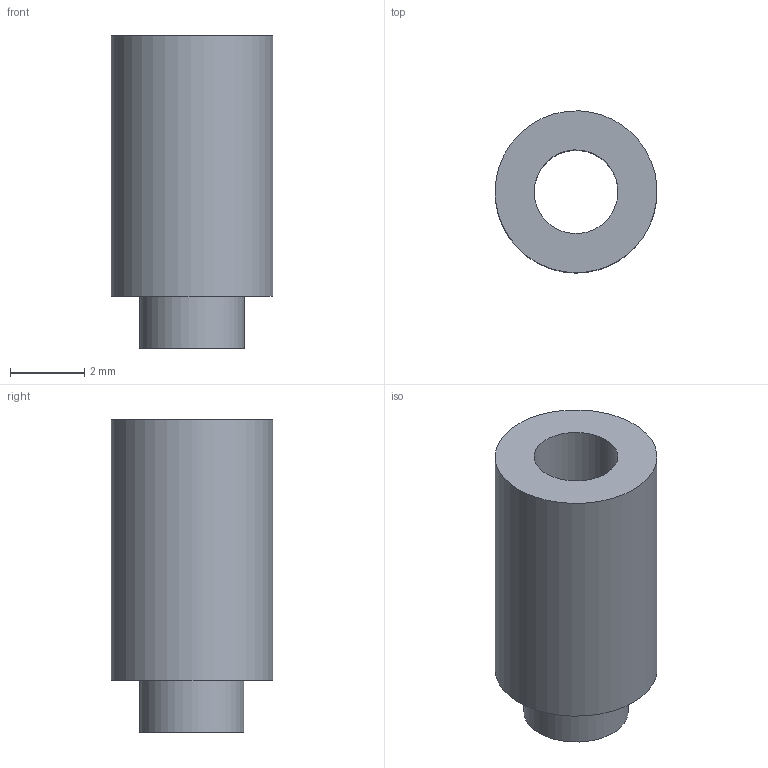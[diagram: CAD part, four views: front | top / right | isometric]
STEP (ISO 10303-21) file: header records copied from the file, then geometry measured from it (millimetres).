
FILE_DESCRIPTION(('FreeCAD Model'),'2;1');
FILE_NAME('Open CASCADE Shape Model','2026-03-20T17:23:20',('Author'),( ''),'Open CASCADE STEP processor 7.8','FreeCAD','Unknown');
FILE_SCHEMA(('AP242_MANAGED_MODEL_BASED_3D_ENGINEERING_MIM_LF. {1 0 10303 442 1 1 4 }'));
Length unit declared in the file: millimetre
Products named in the file (1): 1_transformed
Bounding box: 4.35 x 4.35 x 8.4 mm (x, y, z)
Volume: 80 mm3; surface area: 189.6 mm2
Topology: 1 solids, 1 shells, 6 faces, 9 edges, 6 vertices
Faces by surface type: bspline 6
Entity records: 201 total; most frequent: CARTESIAN_POINT 109, ORIENTED_EDGE 18, FACE_BOUND 9, EDGE_LOOP 9, EDGE_CURVE 9, ADVANCED_FACE 6, VERTEX_POINT 6, B_SPLINE_SURFACE_WITH_KNOTS 3
